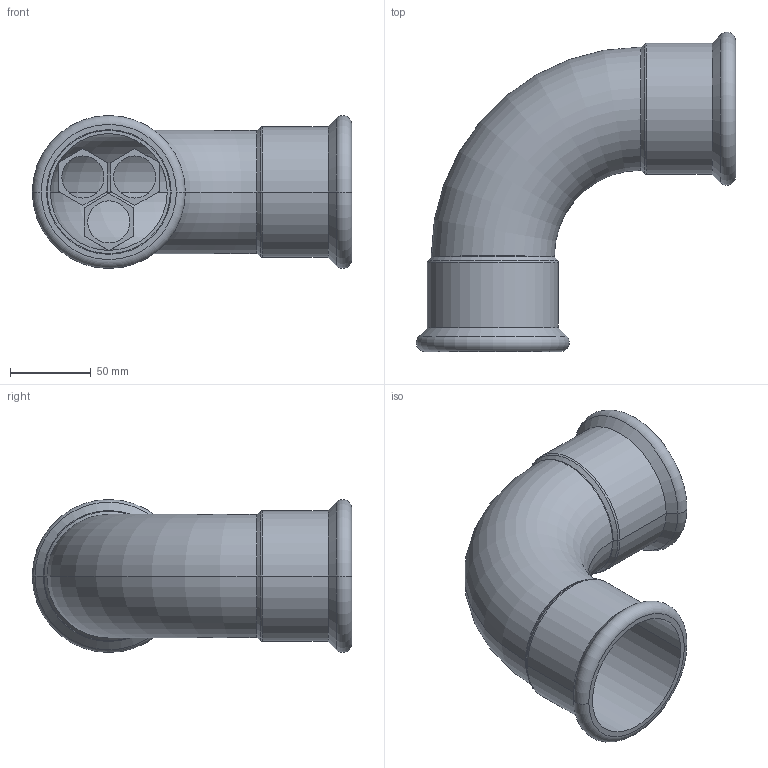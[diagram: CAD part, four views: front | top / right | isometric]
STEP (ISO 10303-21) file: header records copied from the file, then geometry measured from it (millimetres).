
FILE_DESCRIPTION(('OneSpaceDesigner STEP Export'),'2;1');
FILE_NAME('R2708 76x76.stp','2010-06-09T14:40:00',(''),(''),'OneSpace Designer STEP processor for AP214 (Solid Model)','OneSpace Modeling 15.00A 14-Mar-2007 (C) CoCreate Software GmbH','');
FILE_SCHEMA(('AUTOMOTIVE_DESIGN { 1 0 10303 214 1 1 1 1 }'));
Length unit declared in the file: millimetre
Products named in the file (2): R2708_76x76
Assembly tree (1 placements, depth 2):
  R2708_76x76
    R2708_76x76
Bounding box: 197.24 x 197.24 x 94.48 mm (x, y, z)
Volume: 168959.3 mm3; surface area: 139805.1 mm2
Topology: 1 solids, 1 shells, 118 faces, 295 edges, 189 vertices
Faces by surface type: plane 60, cylinder 38, torus 12, cone 8
Entity records: 3100 total; most frequent: ORIENTED_EDGE 590, CARTESIAN_POINT 503, DIRECTION 450, EDGE_CURVE 295, VERTEX_POINT 189, VECTOR 178, LINE 178, EDGE_LOOP 142
